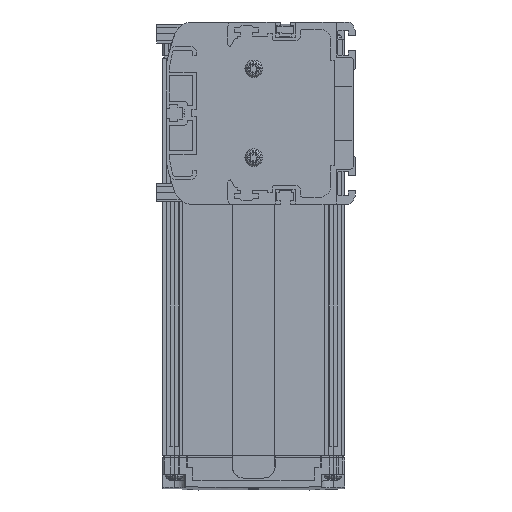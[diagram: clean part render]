
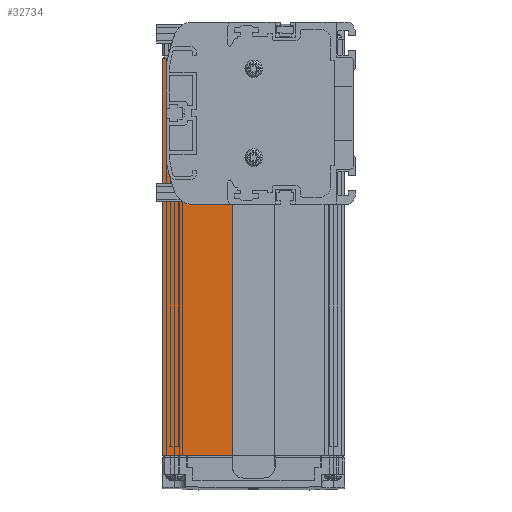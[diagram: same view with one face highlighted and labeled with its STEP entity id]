
A CAD part, left-side view. The second image highlights one B-rep face of the part: STEP entity #32734.
In plain terms, the highlighted planar face has unit normal (-1, 0, 0).
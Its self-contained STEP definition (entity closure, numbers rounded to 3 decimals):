
#5431=CARTESIAN_POINT('',(3.,79.,19.823));
#5432=DIRECTION('',(1.,0.,0.));
#5433=DIRECTION('',(0.,1.,0.));
#5434=AXIS2_PLACEMENT_3D('',#5431,#5432,#5433);
#5444=DIRECTION('',(0.,0.,1.));
#5445=VECTOR('',#5444,39.645);
#5446=CARTESIAN_POINT('',(3.,81.,-19.823));
#5447=LINE('',#5446,#5445);
#5484=CARTESIAN_POINT('',(3.,79.,-19.823));
#5485=DIRECTION('',(-1.,0.,0.));
#5486=DIRECTION('',(0.,1.,0.));
#5487=AXIS2_PLACEMENT_3D('',#5484,#5485,#5486);
#5493=CARTESIAN_POINT('',(3.,2.235,-6.));
#5494=DIRECTION('',(1.,0.,0.));
#5495=DIRECTION('',(0.,0.938,-0.347));
#5496=AXIS2_PLACEMENT_3D('',#5493,#5494,#5495);
#5828=CARTESIAN_POINT('',(3.,2.235,6.));
#5829=DIRECTION('',(1.,0.,0.));
#5830=DIRECTION('',(0.,0.984,0.177));
#5831=AXIS2_PLACEMENT_3D('',#5828,#5829,#5830);
#5846=DIRECTION('',(0.,-1.,0.));
#5847=VECTOR('',#5846,29.9);
#5848=CARTESIAN_POINT('',(3.,82.5,-146.5));
#5849=LINE('',#5848,#5847);
#5850=DIRECTION('',(0.,1.,0.));
#5851=VECTOR('',#5850,2.203);
#5852=CARTESIAN_POINT('',(3.,80.297,23.5));
#5853=LINE('',#5852,#5851);
#5854=DIRECTION('',(0.,-1.,0.));
#5855=VECTOR('',#5854,17.155);
#5856=CARTESIAN_POINT('',(3.,69.755,-39.));
#5857=LINE('',#5856,#5855);
#5892=CARTESIAN_POINT('',(3.,69.755,-31.));
#5893=DIRECTION('',(1.,0.,0.));
#5894=DIRECTION('',(0.,0.,-1.));
#5895=AXIS2_PLACEMENT_3D('',#5892,#5893,#5894);
#11701=DIRECTION('',(0.,0.,1.));
#11702=VECTOR('',#11701,170.);
#11703=CARTESIAN_POINT('',(3.,82.5,-146.5));
#11704=LINE('',#11703,#11702);
#13998=DIRECTION('',(0.,0.,1.));
#13999=VECTOR('',#13998,107.5);
#14000=CARTESIAN_POINT('',(3.,52.6,-146.5));
#14001=LINE('',#14000,#13999);
#19893=CARTESIAN_POINT('',(3.,82.5,23.5));
#19894=VERTEX_POINT('',#19893);
#19939=CARTESIAN_POINT('',(3.,82.5,-146.5));
#19940=VERTEX_POINT('',#19939);
#19941=CARTESIAN_POINT('',(3.,52.6,-146.5));
#19942=VERTEX_POINT('',#19941);
#24439=CARTESIAN_POINT('',(3.,69.755,-39.));
#24440=CARTESIAN_POINT('',(3.,52.6,-39.));
#24441=VERTEX_POINT('',#24439);
#24442=VERTEX_POINT('',#24440);
#24443=CARTESIAN_POINT('',(3.,80.297,23.5));
#24445=VERTEX_POINT('',#24443);
#24467=CARTESIAN_POINT('',(3.,81.,-19.823));
#24468=CARTESIAN_POINT('',(3.,80.968,-20.177));
#24469=VERTEX_POINT('',#24467);
#24470=VERTEX_POINT('',#24468);
#24471=CARTESIAN_POINT('',(3.,77.257,-33.778));
#24472=VERTEX_POINT('',#24471);
#24485=CARTESIAN_POINT('',(3.,80.968,20.177));
#24486=VERTEX_POINT('',#24485);
#24487=CARTESIAN_POINT('',(3.,81.,19.823));
#24488=VERTEX_POINT('',#24487);
#32710=CARTESIAN_POINT('',(3.,67.55,-61.5));
#32711=DIRECTION('',(1.,0.,0.));
#32712=DIRECTION('',(0.,1.,0.));
#32713=AXIS2_PLACEMENT_3D('',#32710,#32711,#32712);
#32714=PLANE('',#32713);
#32716=ORIENTED_EDGE('',*,*,#32715,.T.);
#32718=ORIENTED_EDGE('',*,*,#32717,.F.);
#32720=ORIENTED_EDGE('',*,*,#32719,.F.);
#32722=ORIENTED_EDGE('',*,*,#32721,.T.);
#32724=ORIENTED_EDGE('',*,*,#32723,.F.);
#32725=ORIENTED_EDGE('',*,*,#32694,.F.);
#32726=ORIENTED_EDGE('',*,*,#32126,.F.);
#32727=ORIENTED_EDGE('',*,*,#32141,.F.);
#32728=ORIENTED_EDGE('',*,*,#32180,.T.);
#32729=ORIENTED_EDGE('',*,*,#32197,.F.);
#32731=ORIENTED_EDGE('',*,*,#32730,.F.);
#32732=EDGE_LOOP('',(#32716,#32718,#32720,#32722,#32724,#32725,#32726,#32727,
#32728,#32729,#32731));
#32733=FACE_OUTER_BOUND('',#32732,.F.);
#32734=ADVANCED_FACE('',(#32733),#32714,.F.);
#5435=CIRCLE('',#5434,2.);
#5488=CIRCLE('',#5487,2.);
#5497=CIRCLE('',#5496,80.);
#5832=CIRCLE('',#5831,80.);
#5896=CIRCLE('',#5895,8.);
#32126=EDGE_CURVE('',#24488,#24486,#5435,.T.);
#32141=EDGE_CURVE('',#24469,#24488,#5447,.T.);
#32180=EDGE_CURVE('',#24469,#24470,#5488,.T.);
#32197=EDGE_CURVE('',#24472,#24470,#5497,.T.);
#32694=EDGE_CURVE('',#24486,#24445,#5832,.T.);
#32715=EDGE_CURVE('',#24441,#24442,#5857,.T.);
#32717=EDGE_CURVE('',#19942,#24442,#14001,.T.);
#32719=EDGE_CURVE('',#19940,#19942,#5849,.T.);
#32721=EDGE_CURVE('',#19940,#19894,#11704,.T.);
#32723=EDGE_CURVE('',#24445,#19894,#5853,.T.);
#32730=EDGE_CURVE('',#24441,#24472,#5896,.T.);
